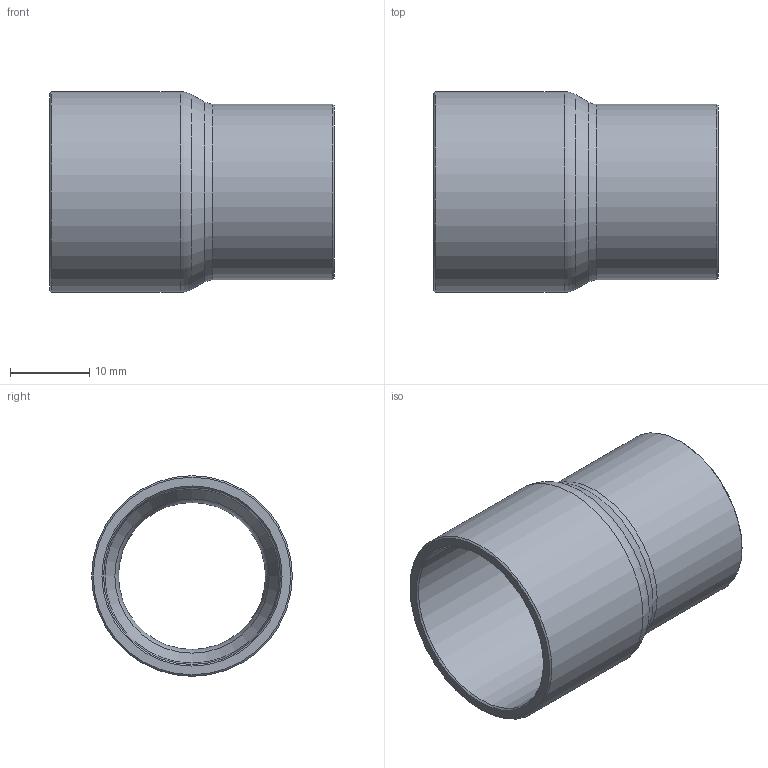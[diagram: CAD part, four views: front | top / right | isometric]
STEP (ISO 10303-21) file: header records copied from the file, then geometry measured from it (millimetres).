
FILE_DESCRIPTION((''),'2;1');
FILE_NAME('G:\SANHA-Ternat\Technik\Management\Bouwmaten + markeringen\z-maattekeningen 3D\29000s\292407834_3d.stp','2017-08-04T10:26:17',('vdvijverd'),(''),'Autodesk Inventor 2009','Autodesk Inventor 2009','');
FILE_SCHEMA(('AUTOMOTIVE_DESIGN { 1 0 10303 214 1 1 1 1 }'));
Length unit declared in the file: millimetre
Products named in the file (1): 292407834_3d
Bounding box: 36 x 25.38 x 25.38 mm (x, y, z)
Volume: 3885 mm3; surface area: 5275.7 mm2
Topology: 1 solids, 1 shells, 17 faces, 32 edges, 17 vertices
Faces by surface type: cone 6, cylinder 4, bspline 3, plane 2, torus 2
Full cylindrical faces by diameter (mm): 19.17 x1, 22.17 x1, 22.375 x1, 25.375 x1
Entity records: 494 total; most frequent: CARTESIAN_POINT 184, DIRECTION 64, ORIENTED_EDGE 34, EDGE_LOOP 34, AXIS2_PLACEMENT_3D 32, VERTEX_POINT 17, CIRCLE 17, EDGE_CURVE 17
